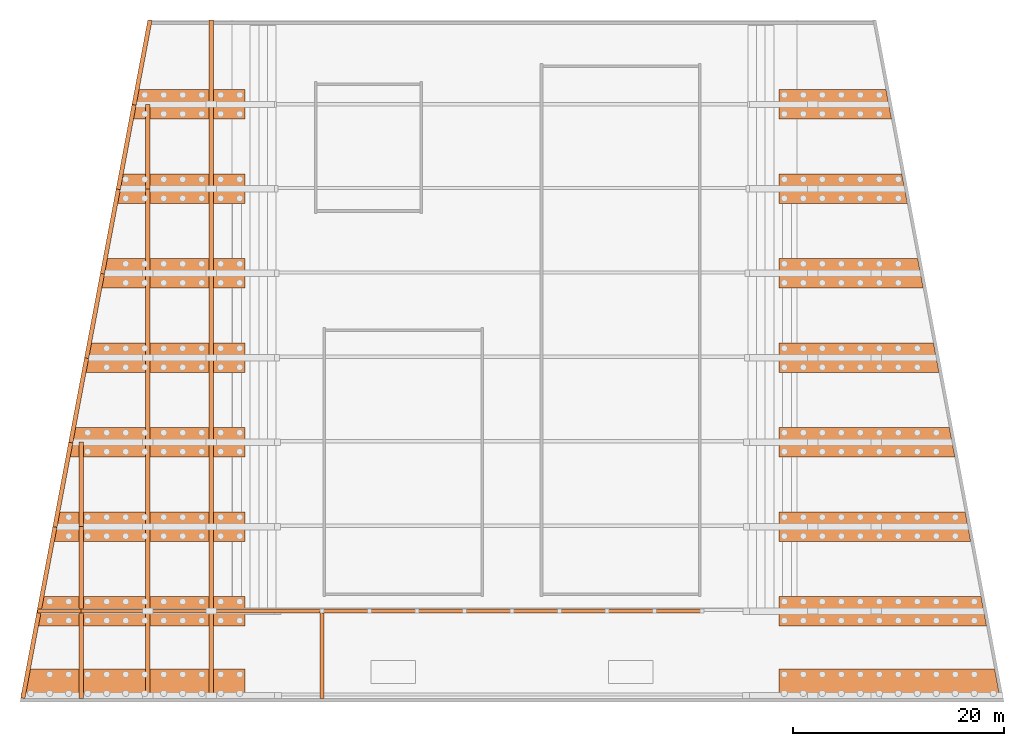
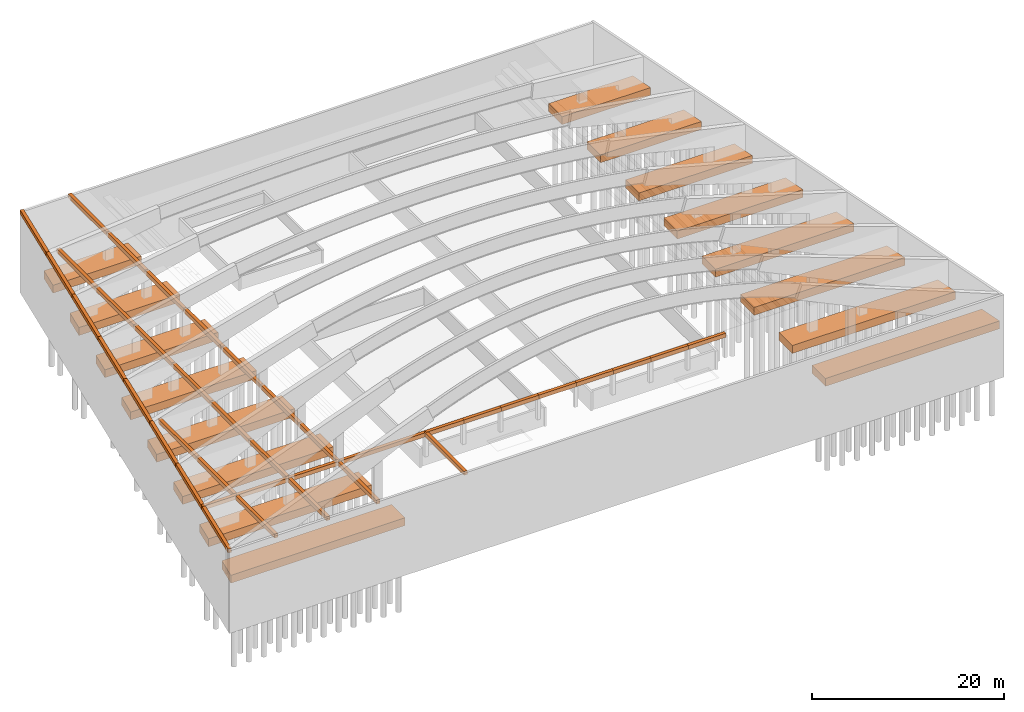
# One storey, part 7 of 10: 55 proxies.
"""IFC2X3 building model written with IfcOpenShell, lengths in millimetres."""

import ifcopenshell
import ifcopenshell.guid

model = None  # the IFC model being written
_history = None  # IfcOwnerHistory: only IFC2X3 demands one
_inside = {}  # id of a spatial element -> (the spatial element, [elements in it])
_under = {}  # id of a project, library or spatial element -> (it, [spatial elements below it])
_declared = {}  # id of a project -> (the project, [libraries it declares])
_typed = {}  # id of a type object -> (the type object, [elements of that type])
_made_of = {}  # id of a material, layer set ... -> (it, [elements and type objects made of it])


def new_model(schema):
    """Start an empty IFC model of exactly this schema.

    Asked for "IFC4X3", IfcOpenShell would pick the latest addendum, in which some entities
    have other attributes; the version numbers below select the first issue.
    IFC2X3 requires an IfcOwnerHistory on every rooted entity: one is made here for all.
    """
    global model, _history
    if schema == "IFC4X3":
        model = ifcopenshell.file(schema_version=(4, 3, 0, 0))
    else:
        model = ifcopenshell.file(schema=schema)
    _inside.clear()
    _under.clear()
    _declared.clear()
    _typed.clear()
    _made_of.clear()
    _history = None
    if model.schema == "IFC2X3":
        org = make("IfcOrganization", Name="unknown")
        user = make(
            "IfcPersonAndOrganization",
            ThePerson=make("IfcPerson", FamilyName="unknown"),
            TheOrganization=org,
        )
        app = make(
            "IfcApplication",
            ApplicationDeveloper=org,
            Version="unknown",
            ApplicationFullName="unknown",
            ApplicationIdentifier="unknown",
        )
        _history = make(
            "IfcOwnerHistory",
            OwningUser=user,
            OwningApplication=app,
            ChangeAction="ADDED",
            CreationDate=0,
        )
    return model


def make(cls, **values):
    """One entity of the class cls with the attributes given. An attribute that is None is left unset."""
    return model.create_entity(
        cls, **{name: value for name, value in values.items() if value is not None}
    )


def rooted(cls, **values):
    """An entity with a GlobalId (a new one), such as an element, a storey or a relation."""
    return make(cls, GlobalId=ifcopenshell.guid.new(), OwnerHistory=_history, **values)


def si_unit(unit_type, name, prefix=None):
    """IfcSIUnit, for example si_unit("LENGTHUNIT", "METRE", prefix="MILLI")."""
    return make("IfcSIUnit", UnitType=unit_type, Prefix=prefix, Name=name)


def derived_unit(unit_type, elements):
    """IfcDerivedUnit: a product of units, each with its exponent."""
    return make(
        "IfcDerivedUnit",
        Elements=[
            make("IfcDerivedUnitElement", Unit=unit, Exponent=power)
            for unit, power in elements
        ],
        UnitType=unit_type,
    )


def assignment(units):
    """IfcUnitAssignment: the units of a project."""
    return None if units is None else make("IfcUnitAssignment", Units=units)


def point(xyz):
    """IfcCartesianPoint."""
    return None if xyz is None else make("IfcCartesianPoint", Coordinates=xyz)


def direction(xyz):
    """IfcDirection."""
    return None if xyz is None else make("IfcDirection", DirectionRatios=xyz)


def frame(location, z_axis=None, x_axis=None):
    """IfcAxis2Placement3D, a coordinate frame: its origin and axes. An axis left out is left unset."""
    return make(
        "IfcAxis2Placement3D",
        Location=point(location),
        Axis=direction(z_axis),
        RefDirection=direction(x_axis),
    )


def frame_2d(location, x_axis=None):
    """IfcAxis2Placement2D, a coordinate frame in the plane: its origin and x axis."""
    return make(
        "IfcAxis2Placement2D", Location=point(location), RefDirection=direction(x_axis)
    )


def origin():
    """The frame at (0, 0, 0) with its axes left unset."""
    return frame((0.0, 0.0, 0.0))


def origin_2d_with_axis():
    """The frame at (0, 0) in the plane with the x axis (1, 0) written out."""
    return frame_2d((0.0, 0.0), x_axis=(1.0, 0.0))


def place(relative_to, where):
    """IfcLocalPlacement: puts the frame where relative to a parent placement (None: the world)."""
    return make(
        "IfcLocalPlacement", PlacementRelTo=relative_to, RelativePlacement=where
    )


def context(
    kind, dimensions, precision=None, world=None, true_north=None, identifier=None
):
    """IfcGeometricRepresentationContext, for example the 3D "Model" context."""
    return make(
        "IfcGeometricRepresentationContext",
        ContextIdentifier=identifier,
        ContextType=kind,
        CoordinateSpaceDimension=dimensions,
        Precision=precision,
        WorldCoordinateSystem=world,
        TrueNorth=true_north,
    )


def subcontext(parent, identifier, kind, view, scale=None):
    """IfcGeometricRepresentationSubContext, for example "Body" below "Model"."""
    return make(
        "IfcGeometricRepresentationSubContext",
        ContextIdentifier=identifier,
        ContextType=kind,
        ParentContext=parent,
        TargetScale=scale,
        TargetView=view,
    )


def project(units=None, contexts=None):
    """IfcProject with its units and contexts."""
    return rooted(
        "IfcProject",
        Name="project",
        RepresentationContexts=contexts,
        UnitsInContext=assignment(units),
    )


def spatial(cls, under=None, at=None, **own):
    """A site, building, storey or space (cls), placed at a placement, below another one or the project."""
    s = rooted(cls, ObjectPlacement=at, **own)
    if under is not None:
        _under.setdefault(under.id(), (under, []))[1].append(s)
    return s


def polyline(points):
    """IfcPolyline through the points."""
    return make("IfcPolyline", Points=[point(p) for p in points])


def profile(cls, at=None, kind="AREA", **sizes):
    """A parametric profile (cls). Its sizes go by their IFC names, for example OverallWidth=200.0."""
    return make(cls, ProfileType=kind, Position=at, **sizes)


def rectangle(**sizes):
    """IfcRectangleProfileDef."""
    return profile("IfcRectangleProfileDef", **sizes)


def outline(outer, holes=None, kind="AREA"):
    """IfcArbitraryClosedProfileDef: a profile drawn as a closed curve; with holes, ...WithVoids."""
    if holes is None:
        return make("IfcArbitraryClosedProfileDef", ProfileType=kind, OuterCurve=outer)
    return make(
        "IfcArbitraryProfileDefWithVoids",
        ProfileType=kind,
        OuterCurve=outer,
        InnerCurves=holes,
    )


def extrude(swept, where, along, depth):
    """IfcExtrudedAreaSolid: the profile swept, set in the frame where, extruded along a direction by depth."""
    return make(
        "IfcExtrudedAreaSolid",
        SweptArea=swept,
        Position=where,
        ExtrudedDirection=direction(along),
        Depth=depth,
    )


def shape(context_of_items, identifier, shape_type, items):
    """IfcShapeRepresentation: the items that make up one representation, for example the "Body"."""
    return make(
        "IfcShapeRepresentation",
        ContextOfItems=context_of_items,
        RepresentationIdentifier=identifier,
        RepresentationType=shape_type,
        Items=items,
    )


def source(mapping_origin, context_of_items, identifier, shape_type, items):
    """IfcRepresentationMap: a shape defined once, which mapped items show again and again."""
    return make(
        "IfcRepresentationMap",
        MappingOrigin=mapping_origin,
        MappedRepresentation=shape(context_of_items, identifier, shape_type, items),
    )


def transform(
    local_origin,
    x_axis=None,
    y_axis=None,
    z_axis=None,
    scale=None,
    scale2=None,
    scale3=None,
    uniform=True,
):
    """IfcCartesianTransformationOperator3D, or its non-uniform kind. x_axis, y_axis, z_axis: its Axis1, 2, 3."""
    if uniform:
        return make(
            "IfcCartesianTransformationOperator3D",
            Axis1=direction(x_axis),
            Axis2=direction(y_axis),
            LocalOrigin=point(local_origin),
            Scale=scale,
            Axis3=direction(z_axis),
        )
    return make(
        "IfcCartesianTransformationOperator3DnonUniform",
        Axis1=direction(x_axis),
        Axis2=direction(y_axis),
        LocalOrigin=point(local_origin),
        Scale=scale,
        Axis3=direction(z_axis),
        Scale2=scale2,
        Scale3=scale3,
    )


def mapped(mapping_source, mapping_target):
    """IfcMappedItem: shows the shape of a source again, moved by a transform."""
    return make(
        "IfcMappedItem", MappingSource=mapping_source, MappingTarget=mapping_target
    )


def material(Name=None, Category=None):
    """IfcMaterial."""
    return make("IfcMaterial", Name=Name, Category=Category)


def made_of(thing, what):
    """Note that an element or type object is made of a material, layer set ...; save() writes the relation."""
    if what is not None:
        _made_of.setdefault(what.id(), (what, []))[1].append(thing)
    return thing


def type_object(cls, material=None, **own):
    """A type object (cls), such as IfcWallType, which elements share."""
    return made_of(rooted(cls, **own), material)


def type_shapes(of_type, sources):
    """Give a type object the sources (RepresentationMaps) that its elements show as mapped items."""
    of_type.RepresentationMaps = sources


def element(
    cls,
    number,
    at=None,
    inside=None,
    cuts=None,
    type_object=None,
    material=None,
    context=None,
    identifier="Body",
    shape_type=None,
    held_by="IfcProductDefinitionShape",
    body=None,
    shapes=None,
    **own,
):
    """One element of the class cls, such as IfcWall. Its Tag is "e" and its number.

    at: its placement. inside: the storey or other place that contains it. cuts: it is an
    opening in that element (IfcRelVoidsElement). A single representation is given by context,
    identifier, shape_type and body (its items); several are given by shapes. held_by: the class
    of the entity that holds the representations. save() writes the other relations.
    """
    e = rooted(cls, Tag="e%d" % number, ObjectPlacement=at, **own)
    if body is not None:
        shapes = [shape(context, identifier, shape_type, body)]
    if shapes is not None:
        e.Representation = make(held_by, Representations=shapes)
    if inside is not None:
        _inside.setdefault(inside.id(), (inside, []))[1].append(e)
    if cuts is not None:
        rooted(
            "IfcRelVoidsElement", RelatingBuildingElement=cuts, RelatedOpeningElement=e
        )
    if type_object is not None:
        _typed.setdefault(type_object.id(), (type_object, []))[1].append(e)
    return made_of(e, material)


def aggregate(whole, parts):
    """IfcRelAggregates: a whole, such as a stair, and the parts it consists of."""
    return rooted("IfcRelAggregates", RelatingObject=whole, RelatedObjects=parts)


def save(model, path):
    """Write the relations noted so far, then the file.

    IfcRelAggregates (storeys below a building ...), IfcRelContainedInSpatialStructure (elements
    in a storey), IfcRelDefinesByType, IfcRelAssociatesMaterial and IfcRelDeclares: one each for
    every whole, place, type object, material and project.
    """
    for whole, parts in _under.values():
        aggregate(whole, parts)
    for where, things in _inside.values():
        rooted(
            "IfcRelContainedInSpatialStructure",
            RelatedElements=things,
            RelatingStructure=where,
        )
    for kind, things in _typed.values():
        rooted("IfcRelDefinesByType", RelatedObjects=things, RelatingType=kind)
    for what, things in _made_of.values():
        rooted("IfcRelAssociatesMaterial", RelatedObjects=things, RelatingMaterial=what)
    for by, libraries in _declared.values():
        rooted("IfcRelDeclares", RelatingContext=by, RelatedDefinitions=libraries)
    model.write(path)


model = new_model("IFC2X3")

# Units and contexts
model_context = context("Model", 3, precision=0.01, world=origin(), true_north=direction((6.12303176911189e-17, 1.0)))
body_context = subcontext(model_context, "Body", "Model", "MODEL_VIEW")
ifc_project = project(units=[si_unit("LENGTHUNIT", "METRE", prefix="MILLI"), si_unit("AREAUNIT", "SQUARE_METRE"), si_unit("VOLUMEUNIT", "CUBIC_METRE"), si_unit("PLANEANGLEUNIT", "RADIAN"), si_unit("MASSUNIT", "GRAM", prefix="KILO"), derived_unit("MASSDENSITYUNIT", [(si_unit("MASSUNIT", "GRAM", prefix="KILO"), 1), (si_unit("LENGTHUNIT", "METRE"), -3)]), si_unit("TIMEUNIT", "SECOND"), si_unit("FREQUENCYUNIT", "HERTZ"), si_unit("THERMODYNAMICTEMPERATUREUNIT", "DEGREE_CELSIUS"), derived_unit("THERMALTRANSMITTANCEUNIT", [(si_unit("MASSUNIT", "GRAM", prefix="KILO"), 1), (si_unit("THERMODYNAMICTEMPERATUREUNIT", "KELVIN"), -1), (si_unit("TIMEUNIT", "SECOND"), -3)]), derived_unit("VOLUMETRICFLOWRATEUNIT", [(si_unit("LENGTHUNIT", "METRE"), 3), (si_unit("TIMEUNIT", "SECOND"), -1)]), si_unit("ELECTRICCURRENTUNIT", "AMPERE"), si_unit("ELECTRICVOLTAGEUNIT", "VOLT"), si_unit("POWERUNIT", "WATT"), si_unit("FORCEUNIT", "NEWTON", prefix="KILO"), si_unit("ILLUMINANCEUNIT", "LUX"), si_unit("LUMINOUSFLUXUNIT", "LUMEN"), si_unit("LUMINOUSINTENSITYUNIT", "CANDELA"), derived_unit("USERDEFINED", [(si_unit("MASSUNIT", "GRAM", prefix="KILO"), -1), (si_unit("LENGTHUNIT", "METRE"), -2), (si_unit("TIMEUNIT", "SECOND"), 3), (si_unit("LUMINOUSFLUXUNIT", "LUMEN"), 1)]), derived_unit("LINEARVELOCITYUNIT", [(si_unit("LENGTHUNIT", "METRE"), 1), (si_unit("TIMEUNIT", "SECOND"), -1)]), si_unit("PRESSUREUNIT", "PASCAL"), derived_unit("USERDEFINED", [(si_unit("LENGTHUNIT", "METRE"), -2), (si_unit("MASSUNIT", "GRAM", prefix="KILO"), 1), (si_unit("TIMEUNIT", "SECOND"), -2)])], contexts=[model_context])

# Site, building, storey
site_placement = place(None, origin())
site = spatial("IfcSite", under=ifc_project, at=site_placement, Name="Default", CompositionType="ELEMENT")
building_placement = place(site_placement, origin())
building = spatial("IfcBuilding", under=site, at=building_placement, CompositionType="ELEMENT")
storey_placement = place(building_placement, origin())
storey = spatial("IfcBuildingStorey", under=building, at=storey_placement, Name="Default", CompositionType="ELEMENT", Elevation=0.0)

# Proxies
ifc_material_1 = material(Name="CONCRETE/28MPa")
building_element_proxy_type_1 = type_object("IfcBuildingElementProxyType", Name="1000*2800 5068", PredefinedType="NOTDEFINED", material=ifc_material_1)
shared_shape_1 = source(origin(), body_context, "Body", "SweptSolid", [
    extrude(outline(polyline([(-10344.2640245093, -1400.0), (10081.7672788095, -1400.0), (10606.7607702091, 1400.0), (-10344.2640245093, 1400.0), (-10344.2640245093, -1400.0)])), frame((10855.7390539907, 0.0, -500.0), z_axis=(0.0, 0.0, 1.0), x_axis=(-1.0, 0.0, 0.0)), (0.0, 0.0, 1.0), 1000.0),
])
type_shapes(building_element_proxy_type_1, [shared_shape_1])
proxy_1_placement = place(storey_placement, frame((34508.8569215, 67902.3654658, -3800.0)))
element("IfcBuildingElementProxy", 1, at=proxy_1_placement, inside=storey, type_object=building_element_proxy_type_1, material=ifc_material_1, Name="1000*2800 5068:1000*2800 5068", ObjectType="1000*2800 5068:1000*2800 5068", context=body_context, shape_type="MappedRepresentation", body=[
    mapped(shared_shape_1, transform((0.0, 0.0, 0.0), scale=1.0)),
])
building_element_proxy_type_2 = type_object("IfcBuildingElementProxyType", Name="1000*2800 5022", PredefinedType="NOTDEFINED", material=ifc_material_1)
shared_shape_2 = source(origin(), body_context, "Body", "SweptSolid", [
    extrude(outline(polyline([(-9697.39704403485, -1400.0), (9434.90029833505, -1400.0), (9959.89378973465, 1400.0), (-9697.39704403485, 1400.0), (-9697.39704403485, -1400.0)])), frame((10155.2193028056, 0.0, -500.0), z_axis=(0.0, 0.0, 1.0), x_axis=(-1.0, 0.0, 0.0)), (0.0, 0.0, 1.0), 1000.0),
])
type_shapes(building_element_proxy_type_2, [shared_shape_2])
proxy_2_placement = place(storey_placement, frame((35856.2436531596, 74802.3654658, -3800.0)))
element("IfcBuildingElementProxy", 2, at=proxy_2_placement, inside=storey, type_object=building_element_proxy_type_2, material=ifc_material_1, Name="1000*2800 5022:1000*2800 5022", ObjectType="1000*2800 5022:1000*2800 5022", context=body_context, shape_type="MappedRepresentation", body=[
    mapped(shared_shape_2, transform((0.0, 0.0, 0.0), scale=1.0)),
])
building_element_proxy_type_3 = type_object("IfcBuildingElementProxyType", Name="1000*2800 5003", PredefinedType="NOTDEFINED", material=ifc_material_1)
shared_shape_3 = source(origin(), body_context, "Body", "SweptSolid", [
    extrude(outline(polyline([(-8947.40634203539, -1400.0), (8684.90959633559, -1400.0), (9209.90308773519, 1400.0), (-8947.40634203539, 1400.0), (-8947.40634203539, -1400.0)])), frame((9226.15124143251, 0.0, -500.0), z_axis=(0.0, 0.0, 1.0), x_axis=(-1.0, 0.0, 0.0)), (0.0, 0.0, 1.0), 1000.0),
])
type_shapes(building_element_proxy_type_3, [shared_shape_3])
proxy_3_placement = place(storey_placement, frame((37535.3024165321, 82802.3654658, -3800.0)))
element("IfcBuildingElementProxy", 3, at=proxy_3_placement, inside=storey, type_object=building_element_proxy_type_3, material=ifc_material_1, Name="1000*2800 5003:1000*2800 5003", ObjectType="1000*2800 5003:1000*2800 5003", context=body_context, shape_type="MappedRepresentation", body=[
    mapped(shared_shape_3, transform((0.0, 0.0, 0.0), scale=1.0)),
])
building_element_proxy_type_4 = type_object("IfcBuildingElementProxyType", Name="1000*2800 4986", PredefinedType="NOTDEFINED", material=ifc_material_1)
shared_shape_4 = source(origin(), body_context, "Body", "SweptSolid", [
    extrude(outline(polyline([(-7447.42339878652, -1400.0), (7184.92665308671, -1400.0), (7709.92014448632, 1400.0), (-7447.42339878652, 1400.0), (-7447.42339878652, -1400.0)])), frame((7755.09027308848, 0.0, -500.0), z_axis=(0.0, 0.0, 1.0), x_axis=(-1.0, 0.0, 0.0)), (0.0, 0.0, 1.0), 1000.0),
])
type_shapes(building_element_proxy_type_4, [shared_shape_4])
proxy_4_placement = place(storey_placement, frame((40506.343249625, 98802.3654658, -3800.0)))
element("IfcBuildingElementProxy", 4, at=proxy_4_placement, inside=storey, type_object=building_element_proxy_type_4, material=ifc_material_1, Name="1000*2800 4986:1000*2800 4986", ObjectType="1000*2800 4986:1000*2800 4986", context=body_context, shape_type="MappedRepresentation", body=[
    mapped(shared_shape_4, transform((0.0, 0.0, 0.0), scale=1.0)),
])
building_element_proxy_type_5 = type_object("IfcBuildingElementProxyType", Name="1000*2800 4966", PredefinedType="NOTDEFINED", material=ifc_material_1)
shared_shape_5 = source(origin(), body_context, "Body", "SweptSolid", [
    extrude(outline(polyline([(-6697.43269678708, -1400.0), (6434.93595108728, -1400.0), (6959.92944248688, 1400.0), (-6697.43269678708, 1400.0), (-6697.43269678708, -1400.0)])), frame((7020.22160008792, 0.0, -500.0), z_axis=(0.0, 0.0, 1.0), x_axis=(-1.0, 0.0, 0.0)), (0.0, 0.0, 1.0), 1000.0),
])
type_shapes(building_element_proxy_type_5, [shared_shape_5])
proxy_5_placement = place(storey_placement, frame((41991.202624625, 106802.3654658, -3800.0)))
element("IfcBuildingElementProxy", 5, at=proxy_5_placement, inside=storey, type_object=building_element_proxy_type_5, material=ifc_material_1, Name="1000*2800 4966:1000*2800 4966", ObjectType="1000*2800 4966:1000*2800 4966", context=body_context, shape_type="MappedRepresentation", body=[
    mapped(shared_shape_5, transform((0.0, 0.0, 0.0), scale=1.0)),
])
building_element_proxy_type_6 = type_object("IfcBuildingElementProxyType", Name="1000*2800 4946", PredefinedType="NOTDEFINED", material=ifc_material_1)
shared_shape_6 = source(origin(), body_context, "Body", "SweptSolid", [
    extrude(outline(polyline([(-5948.86412433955, -1400.0), (5683.52311880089, -1400.0), (6214.2051298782, 1400.0), (-5948.86412433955, 1400.0), (-5948.86412433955, -1400.0)])), frame((6283.48939118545, 0.0, -500.0), z_axis=(0.0, 0.0, 1.0), x_axis=(-1.0, 0.0, 0.0)), (0.0, 0.0, 1.0), 1000.0),
])
type_shapes(building_element_proxy_type_6, [shared_shape_6])
proxy_6_placement = place(storey_placement, frame((43476.503405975, 114802.3654658, -3800.0)))
element("IfcBuildingElementProxy", 6, at=proxy_6_placement, inside=storey, type_object=building_element_proxy_type_6, material=ifc_material_1, Name="1000*2800 4946:1000*2800 4946", ObjectType="1000*2800 4946:1000*2800 4946", context=body_context, shape_type="MappedRepresentation", body=[
    mapped(shared_shape_6, transform((0.0, 0.0, 0.0), scale=1.0)),
])
building_element_proxy_type_7 = type_object("IfcBuildingElementProxyType", Name="1000*2800 4924", PredefinedType="NOTDEFINED", material=ifc_material_1)
shared_shape_7 = source(origin(), body_context, "Body", "SweptSolid", [
    extrude(outline(polyline([(-5197.45129278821, -1400.0), (4934.95454708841, -1400.0), (5459.94803848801, 1400.0), (-5197.45129278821, 1400.0), (-5197.45129278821, -1400.0)])), frame((5549.60241814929, 0.0, -500.0), z_axis=(0.0, 0.0, 1.0), x_axis=(-1.0, 0.0, 0.0)), (0.0, 0.0, 1.0), 1000.0),
])
type_shapes(building_element_proxy_type_7, [shared_shape_7])
proxy_7_placement = place(storey_placement, frame((44961.8032105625, 122802.3654658, -3800.0)))
element("IfcBuildingElementProxy", 7, at=proxy_7_placement, inside=storey, type_object=building_element_proxy_type_7, material=ifc_material_1, Name="1000*2800 4924:1000*2800 4924", ObjectType="1000*2800 4924:1000*2800 4924", context=body_context, shape_type="MappedRepresentation", body=[
    mapped(shared_shape_7, transform((0.0, 0.0, 0.0), scale=1.0)),
])
ifc_material_2 = material(Name="CONCRETE/28MPa 4258")
building_element_proxy_type_8 = type_object("IfcBuildingElementProxyType", Name="500*400", PredefinedType="NOTDEFINED", material=ifc_material_2)
shared_shape_8 = source(origin(), body_context, "Body", "SweptSolid", [
    extrude(rectangle(XDim=8300.0, YDim=400.0, at=origin_2d_with_axis()), frame((4150.0, 0.0, -250.0)), (0.0, 0.0, 1.0), 500.0),
])
type_shapes(building_element_proxy_type_8, [shared_shape_8])
for number, where, z_axis, x_axis in (
    (8, (52508.86, 66503.9483369, -150.0), (0.0, 0.0, 1.0), (0.0, 1.0, 0.0)),
    (9, (46508.86, 66503.9483369, -150.0), (0.0, 0.0, 1.0), (0.0, 1.0, 0.0)),
    (10, (40201.9643423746, 66502.3654658, -150.0), (0.0, 0.0, 1.0), (0.0, 1.0, 0.0)),
    (11, (63008.86, 74802.37, -150.0), (0.0, 0.0, 1.0), (0.0, -1.0, 0.0)),
):
    element("IfcBuildingElementProxy", number, at=place(storey_placement, frame(where, z_axis=z_axis, x_axis=x_axis)), inside=storey, type_object=building_element_proxy_type_8, material=ifc_material_2, Name="500*400:500*400", ObjectType="500*400:500*400", context=body_context, shape_type="MappedRepresentation", body=[
        mapped(shared_shape_8, transform((0.0, 0.0, 0.0), scale=1.0)),
    ])
building_element_proxy_type_9 = type_object("IfcBuildingElementProxyType", Name="500*400 4495", PredefinedType="NOTDEFINED", material=ifc_material_2)
shared_shape_9 = source(origin(), body_context, "Body", "SweptSolid", [
    extrude(rectangle(XDim=8000.0, YDim=400.0, at=origin_2d_with_axis()), frame((4000.0, 0.0, -250.0)), (0.0, 0.0, 1.0), 500.0),
])
type_shapes(building_element_proxy_type_9, [shared_shape_9])
for number, where, z_axis, x_axis in (
    (12, (52508.86, 74803.9483369, -150.0), (0.0, 0.0, 1.0), (0.0, 1.0, 0.0)),
    (13, (52508.86, 82803.9483369, -150.0), (0.0, 0.0, 1.0), (0.0, 1.0, 0.0)),
    (14, (52508.86, 90803.9483369, -150.0), (0.0, 0.0, 1.0), (0.0, 1.0, 0.0)),
    (15, (52508.86, 98803.9483369, -150.0), (0.0, 0.0, 1.0), (0.0, 1.0, 0.0)),
    (16, (52508.86, 106803.9483369, -150.0), (0.0, 0.0, 1.0), (0.0, 1.0, 0.0)),
    (17, (52508.86, 114803.9483369, -150.0), (0.0, 0.0, 1.0), (0.0, 1.0, 0.0)),
    (18, (46508.86, 74803.9483369, -150.0), (0.0, 0.0, 1.0), (0.0, 1.0, 0.0)),
    (19, (46508.86, 82803.9483369, -150.0), (0.0, 0.0, 1.0), (0.0, 1.0, 0.0)),
    (20, (46508.86, 90803.9483369, -150.0), (0.0, 0.0, 1.0), (0.0, 1.0, 0.0)),
    (21, (46508.86, 98803.9483369, -150.0), (0.0, 0.0, 1.0), (0.0, 1.0, 0.0)),
    (22, (46508.86, 106803.9483369, -150.0), (0.0, 0.0, 1.0), (0.0, 1.0, 0.0)),
    (23, (46508.86, 114803.9483369, -150.0), (0.0, 0.0, 1.0), (0.0, 1.0, 0.0)),
    (24, (40201.9643423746, 74802.3654658, -150.0), (0.0, 0.0, 1.0), (0.0, 1.0, 0.0)),
    (25, (40201.9643423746, 82803.1554658, -150.0), (0.0, 0.0, 1.0), (0.0, 1.0, 0.0)),
):
    element("IfcBuildingElementProxy", number, at=place(storey_placement, frame(where, z_axis=z_axis, x_axis=x_axis)), inside=storey, type_object=building_element_proxy_type_9, material=ifc_material_2, Name="500*400 4495:500*400 4495", ObjectType="500*400 4495:500*400 4495", context=body_context, shape_type="MappedRepresentation", body=[
        mapped(shared_shape_9, transform((0.0, 0.0, 0.0), scale=1.0)),
    ])
building_element_proxy_type_10 = type_object("IfcBuildingElementProxyType", Name="500*400 4752", PredefinedType="NOTDEFINED", material=ifc_material_2)
shared_shape_10 = source(origin(), body_context, "Body", "SweptSolid", [
    extrude(rectangle(XDim=7998.42, YDim=400.0, at=origin_2d_with_axis()), frame((3999.2116631, 0.0, -250.0)), (0.0, 0.0, 1.0), 500.0),
])
type_shapes(building_element_proxy_type_10, [shared_shape_10])
proxy_8_placement = place(storey_placement, frame((52508.86, 122803.9483369, -150.0), z_axis=(0.0, 0.0, 1.0), x_axis=(0.0, 1.0, 0.0)))
element("IfcBuildingElementProxy", 26, at=proxy_8_placement, inside=storey, type_object=building_element_proxy_type_10, material=ifc_material_2, Name="500*400 4752:500*400 4752", ObjectType="500*400 4752:500*400 4752", context=body_context, shape_type="MappedRepresentation", body=[
    mapped(shared_shape_10, transform((0.0, 0.0, 0.0), scale=1.0)),
])
building_element_proxy_type_11 = type_object("IfcBuildingElementProxyType", Name="500*400 4658", PredefinedType="NOTDEFINED", material=ifc_material_2)
shared_shape_11 = source(origin(), body_context, "Body", "SweptSolid", [
    extrude(rectangle(XDim=8364.41, YDim=400.0, at=origin_2d_with_axis()), frame((4182.2064811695, 0.0, -250.0)), (0.0, 0.0, 1.0), 500.0),
])
type_shapes(building_element_proxy_type_11, [shared_shape_11])
proxy_9_placement = place(storey_placement, frame((34663.9670140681, 66544.3618653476, -150.0), z_axis=(0.0, 0.0, 1.0), x_axis=(0.184286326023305, 0.982872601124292, 0.0)))
element("IfcBuildingElementProxy", 27, at=proxy_9_placement, inside=storey, type_object=building_element_proxy_type_11, material=ifc_material_2, Name="500*400 4658:500*400 4658", ObjectType="500*400 4658:500*400 4658", context=body_context, shape_type="MappedRepresentation", body=[
    mapped(shared_shape_11, transform((0.0, 0.0, 0.0), scale=1.0)),
])
building_element_proxy_type_12 = type_object("IfcBuildingElementProxyType", Name="500*400 4569", PredefinedType="NOTDEFINED", material=ifc_material_2)
shared_shape_12 = source(origin(), body_context, "Body", "SweptSolid", [
    extrude(rectangle(XDim=8139.41, YDim=400.0, at=origin_2d_with_axis()), frame((4069.70648117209, 0.0, -250.0)), (0.0, 0.0, 1.0), 500.0),
])
type_shapes(building_element_proxy_type_12, [shared_shape_12])
for number, where, z_axis, x_axis in (
    (28, (36205.411437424, 74765.5082006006, -150.0), (0.0, 0.0, 1.0), (0.184286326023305, 0.982872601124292, 0.0)),
    (29, (37705.391437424, 82765.5082006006, -150.0), (0.0, 0.0, 1.0), (0.184286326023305, 0.982872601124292, 0.0)),
    (30, (39205.3714374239, 90765.5082006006, -150.0), (0.0, 0.0, 1.0), (0.184286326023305, 0.982872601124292, 0.0)),
    (31, (40705.351437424, 98765.5082006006, -150.0), (0.0, 0.0, 1.0), (0.184286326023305, 0.982872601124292, 0.0)),
    (32, (42205.3314374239, 106765.508200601, -150.0), (0.0, 0.0, 1.0), (0.184286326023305, 0.982872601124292, 0.0)),
    (33, (43705.311437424, 114765.508200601, -150.0), (0.0, 0.0, 1.0), (0.184286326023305, 0.982872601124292, 0.0)),
):
    element("IfcBuildingElementProxy", number, at=place(storey_placement, frame(where, z_axis=z_axis, x_axis=x_axis)), inside=storey, type_object=building_element_proxy_type_12, material=ifc_material_2, Name="500*400 4569:500*400 4569", ObjectType="500*400 4569:500*400 4569", context=body_context, shape_type="MappedRepresentation", body=[
        mapped(shared_shape_12, transform((0.0, 0.0, 0.0), scale=1.0)),
    ])
building_element_proxy_type_13 = type_object("IfcBuildingElementProxyType", Name="500*400 4543", PredefinedType="NOTDEFINED", material=ifc_material_2)
shared_shape_13 = source(origin(), body_context, "Body", "SweptSolid", [
    extrude(rectangle(XDim=8139.19, YDim=400.0, at=origin_2d_with_axis()), frame((4069.59041334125, 0.0, -250.0)), (0.0, 0.0, 1.0), 500.0),
])
type_shapes(building_element_proxy_type_13, [shared_shape_13])
proxy_10_placement = place(storey_placement, frame((45205.291395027, 122765.507974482, -150.0), z_axis=(0.0, 0.0, 1.0), x_axis=(0.184287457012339, 0.982872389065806, 0.0)))
element("IfcBuildingElementProxy", 34, at=proxy_10_placement, inside=storey, type_object=building_element_proxy_type_13, material=ifc_material_2, Name="500*400 4543:500*400 4543", ObjectType="500*400 4543:500*400 4543", context=body_context, shape_type="MappedRepresentation", body=[
    mapped(shared_shape_13, transform((0.0, 0.0, 0.0), scale=1.0)),
])
building_element_proxy_type_14 = type_object("IfcBuildingElementProxyType", Name="500*400 4468", PredefinedType="NOTDEFINED", material=ifc_material_2)
shared_shape_14 = source(origin(), body_context, "Body", "SweptSolid", [
    extrude(rectangle(XDim=4148.05, YDim=400.0, at=origin_2d_with_axis()), frame((2074.02550152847, 0.0, -250.0)), (0.0, 0.0, 1.0), 500.0),
])
type_shapes(building_element_proxy_type_14, [shared_shape_14])
proxy_11_placement = place(storey_placement, frame((36050.809498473, 74802.3700000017, -150.0)))
element("IfcBuildingElementProxy", 35, at=proxy_11_placement, inside=storey, type_object=building_element_proxy_type_14, material=ifc_material_2, Name="500*400 4468:500*400 4468", ObjectType="500*400 4468:500*400 4468", context=body_context, shape_type="MappedRepresentation", body=[
    mapped(shared_shape_14, transform((0.0, 0.0, 0.0), scale=1.0)),
])
building_element_proxy_type_15 = type_object("IfcBuildingElementProxyType", Name="500*400 4444", PredefinedType="NOTDEFINED", material=ifc_material_2)
shared_shape_15 = source(origin(), body_context, "Body", "SweptSolid", [
    extrude(rectangle(XDim=6310.0, YDim=400.0, at=origin_2d_with_axis()), frame((3155.0, 0.0, -250.0)), (0.0, 0.0, 1.0), 500.0),
])
type_shapes(building_element_proxy_type_15, [shared_shape_15])
proxy_12_placement = place(storey_placement, frame((40198.86, 74802.3700000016, -150.0)))
element("IfcBuildingElementProxy", 36, at=proxy_12_placement, inside=storey, type_object=building_element_proxy_type_15, material=ifc_material_2, Name="500*400 4444:500*400 4444", ObjectType="500*400 4444:500*400 4444", context=body_context, shape_type="MappedRepresentation", body=[
    mapped(shared_shape_15, transform((0.0, 0.0, 0.0), scale=1.0)),
])
building_element_proxy_type_16 = type_object("IfcBuildingElementProxyType", Name="500*400 4419", PredefinedType="NOTDEFINED", material=ifc_material_2)
shared_shape_16 = source(origin(), body_context, "Body", "SweptSolid", [
    extrude(rectangle(XDim=6000.0, YDim=400.0, at=origin_2d_with_axis()), frame((3000.0, 0.0, -250.0)), (0.0, 0.0, 1.0), 500.0),
])
type_shapes(building_element_proxy_type_16, [shared_shape_16])
proxy_13_placement = place(storey_placement, frame((46508.86, 74802.3700000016, -150.0)))
element("IfcBuildingElementProxy", 37, at=proxy_13_placement, inside=storey, type_object=building_element_proxy_type_16, material=ifc_material_2, Name="500*400 4419:500*400 4419", ObjectType="500*400 4419:500*400 4419", context=body_context, shape_type="MappedRepresentation", body=[
    mapped(shared_shape_16, transform((0.0, 0.0, 0.0), scale=1.0)),
])
building_element_proxy_type_17 = type_object("IfcBuildingElementProxyType", Name="500*400 4394", PredefinedType="NOTDEFINED", material=ifc_material_2)
shared_shape_17 = source(origin(), body_context, "Body", "SweptSolid", [
    extrude(rectangle(XDim=10500.0, YDim=400.0, at=origin_2d_with_axis()), frame((5250.0, 0.0, -250.0)), (0.0, 0.0, 1.0), 500.0),
])
type_shapes(building_element_proxy_type_17, [shared_shape_17])
proxy_14_placement = place(storey_placement, frame((52508.86, 74802.3700000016, -150.0)))
element("IfcBuildingElementProxy", 38, at=proxy_14_placement, inside=storey, type_object=building_element_proxy_type_17, material=ifc_material_2, Name="500*400 4394:500*400 4394", ObjectType="500*400 4394:500*400 4394", context=body_context, shape_type="MappedRepresentation", body=[
    mapped(shared_shape_17, transform((0.0, 0.0, 0.0), scale=1.0)),
])
building_element_proxy_type_18 = type_object("IfcBuildingElementProxyType", Name="500*400 4300", PredefinedType="NOTDEFINED", material=ifc_material_2)
shared_shape_18 = source(origin(), body_context, "Body", "SweptSolid", [
    extrude(rectangle(XDim=4500.0, YDim=400.0, at=origin_2d_with_axis()), frame((2250.0, 0.0, -250.0)), (0.0, 0.0, 1.0), 500.0),
])
type_shapes(building_element_proxy_type_18, [shared_shape_18])
for number, where in (
    (39, (63008.86, 74802.37, -150.0)),
    (40, (67508.86, 74802.3700000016, -150.0)),
    (41, (72008.86, 74802.3700000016, -150.0)),
    (42, (76508.86, 74802.3700000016, -150.0)),
    (43, (81008.86, 74802.3700000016, -150.0)),
    (44, (85508.86, 74802.3700000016, -150.0)),
    (45, (90008.86, 74802.3700000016, -150.0)),
    (46, (94508.86, 74802.3700000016, -150.0)),
):
    element("IfcBuildingElementProxy", number, at=place(storey_placement, frame(where)), inside=storey, type_object=building_element_proxy_type_18, material=ifc_material_2, Name="500*400 4300:500*400 4300", ObjectType="500*400 4300:500*400 4300", context=body_context, shape_type="MappedRepresentation", body=[
        mapped(shared_shape_18, transform((0.0, 0.0, 0.0), scale=1.0)),
    ])
building_element_proxy_type_19 = type_object("IfcBuildingElementProxyType", Name="1000*2800 3217", PredefinedType="NOTDEFINED", material=ifc_material_1)
shared_shape_19 = source(origin(), body_context, "Body", "SweptSolid", [
    extrude(outline(polyline([(-8197.41634203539, -1400.0), (7934.91959633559, -1400.0), (8459.91308773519, 1400.0), (-8197.41634203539, 1400.0), (-8197.41634203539, -1400.0)])), frame((8476.16124143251, 0.0, -500.0), z_axis=(0.0, 0.0, 1.0), x_axis=(-1.0, 0.0, 0.0)), (0.0, 0.0, 1.0), 1000.0),
])
type_shapes(building_element_proxy_type_19, [shared_shape_19])
proxy_15_placement = place(storey_placement, frame((39035.2824165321, 90802.3654658, -3800.0)))
element("IfcBuildingElementProxy", 47, at=proxy_15_placement, inside=storey, type_object=building_element_proxy_type_19, material=ifc_material_1, Name="1000*2800 3217:1000*2800 3217", ObjectType="1000*2800 3217:1000*2800 3217", context=body_context, shape_type="MappedRepresentation", body=[
    mapped(shared_shape_19, transform((0.0, 0.0, 0.0), scale=1.0)),
])
building_element_proxy_type_20 = type_object("IfcBuildingElementProxyType", Name="1000*2800 1835", PredefinedType="NOTDEFINED", material=ifc_material_1)
shared_shape_20 = source(origin(), body_context, "Body", "SweptSolid", [
    extrude(outline(polyline([(-10344.2640245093, -1400.0), (10606.7607702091, -1400.0), (10081.7672788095, 1400.0), (-10344.2640245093, 1400.0), (-10344.2640245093, -1400.0)])), frame((10855.7390539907, 0.0, -500.0), z_axis=(0.0, 0.0, 1.0), x_axis=(-1.0, 0.0, 0.0)), (0.0, 0.0, 1.0), 1000.0),
])
type_shapes(building_element_proxy_type_20, [shared_shape_20])
proxy_16_placement = place(storey_placement, frame((127508.8630785, 67902.3654658, -3800.0), z_axis=(0.0, 0.0, 1.0), x_axis=(-1.0, 0.0, 0.0)))
element("IfcBuildingElementProxy", 48, at=proxy_16_placement, inside=storey, type_object=building_element_proxy_type_20, material=ifc_material_1, Name="1000*2800 1835:1000*2800 1835", ObjectType="1000*2800 1835:1000*2800 1835", context=body_context, shape_type="MappedRepresentation", body=[
    mapped(shared_shape_20, transform((0.0, 0.0, 0.0), scale=1.0)),
])
building_element_proxy_type_21 = type_object("IfcBuildingElementProxyType", Name="1000*2800 1754", PredefinedType="NOTDEFINED", material=ifc_material_1)
shared_shape_21 = source(origin(), body_context, "Body", "SweptSolid", [
    extrude(outline(polyline([(-9697.39704403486, -1400.0), (9959.89378973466, -1400.0), (9434.90029833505, 1400.0), (-9697.39704403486, 1400.0), (-9697.39704403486, -1400.0)])), frame((10155.2193028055, 0.0, -500.0), z_axis=(0.0, 0.0, 1.0), x_axis=(-1.0, 0.0, 0.0)), (0.0, 0.0, 1.0), 1000.0),
])
type_shapes(building_element_proxy_type_21, [shared_shape_21])
proxy_17_placement = place(storey_placement, frame((126161.47634684, 74802.3654658, -3800.0), z_axis=(0.0, 0.0, 1.0), x_axis=(-1.0, 0.0, 0.0)))
element("IfcBuildingElementProxy", 49, at=proxy_17_placement, inside=storey, type_object=building_element_proxy_type_21, material=ifc_material_1, Name="1000*2800 1754:1000*2800 1754", ObjectType="1000*2800 1754:1000*2800 1754", context=body_context, shape_type="MappedRepresentation", body=[
    mapped(shared_shape_21, transform((0.0, 0.0, 0.0), scale=1.0)),
])
building_element_proxy_type_22 = type_object("IfcBuildingElementProxyType", Name="1000*2800 1722", PredefinedType="NOTDEFINED", material=ifc_material_1)
shared_shape_22 = source(origin(), body_context, "Body", "SweptSolid", [
    extrude(outline(polyline([(-8947.40634203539, -1400.0), (9209.90308773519, -1400.0), (8684.90959633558, 1400.0), (-8947.40634203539, 1400.0), (-8947.40634203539, -1400.0)])), frame((9226.15124143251, 0.0, -500.0), z_axis=(0.0, 0.0, 1.0), x_axis=(-1.0, 0.0, 0.0)), (0.0, 0.0, 1.0), 1000.0),
])
type_shapes(building_element_proxy_type_22, [shared_shape_22])
proxy_18_placement = place(storey_placement, frame((124482.417583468, 82802.3654658, -3800.0), z_axis=(0.0, 0.0, 1.0), x_axis=(-1.0, 0.0, 0.0)))
element("IfcBuildingElementProxy", 50, at=proxy_18_placement, inside=storey, type_object=building_element_proxy_type_22, material=ifc_material_1, Name="1000*2800 1722:1000*2800 1722", ObjectType="1000*2800 1722:1000*2800 1722", context=body_context, shape_type="MappedRepresentation", body=[
    mapped(shared_shape_22, transform((0.0, 0.0, 0.0), scale=1.0)),
])
building_element_proxy_type_23 = type_object("IfcBuildingElementProxyType", Name="1000*2800 1692", PredefinedType="NOTDEFINED", material=ifc_material_1)
shared_shape_23 = source(origin(), body_context, "Body", "SweptSolid", [
    extrude(outline(polyline([(-7447.42339878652, -1400.0), (7709.92014448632, -1400.0), (7184.92665308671, 1400.0), (-7447.42339878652, 1400.0), (-7447.42339878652, -1400.0)])), frame((7755.09027308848, 0.0, -500.0), z_axis=(0.0, 0.0, 1.0), x_axis=(-1.0, 0.0, 0.0)), (0.0, 0.0, 1.0), 1000.0),
])
type_shapes(building_element_proxy_type_23, [shared_shape_23])
proxy_19_placement = place(storey_placement, frame((121511.376750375, 98802.3654658, -3800.0), z_axis=(0.0, 0.0, 1.0), x_axis=(-1.0, 0.0, 0.0)))
element("IfcBuildingElementProxy", 51, at=proxy_19_placement, inside=storey, type_object=building_element_proxy_type_23, material=ifc_material_1, Name="1000*2800 1692:1000*2800 1692", ObjectType="1000*2800 1692:1000*2800 1692", context=body_context, shape_type="MappedRepresentation", body=[
    mapped(shared_shape_23, transform((0.0, 0.0, 0.0), scale=1.0)),
])
building_element_proxy_type_24 = type_object("IfcBuildingElementProxyType", Name="1000*2800 1660", PredefinedType="NOTDEFINED", material=ifc_material_1)
shared_shape_24 = source(origin(), body_context, "Body", "SweptSolid", [
    extrude(outline(polyline([(-6697.43269678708, -1400.0), (6959.92944248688, -1400.0), (6434.93595108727, 1400.0), (-6697.43269678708, 1400.0), (-6697.43269678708, -1400.0)])), frame((7020.22160008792, 0.0, -500.0), z_axis=(0.0, 0.0, 1.0), x_axis=(-1.0, 0.0, 0.0)), (0.0, 0.0, 1.0), 1000.0),
])
type_shapes(building_element_proxy_type_24, [shared_shape_24])
proxy_20_placement = place(storey_placement, frame((120026.517375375, 106802.3654658, -3800.0), z_axis=(0.0, 0.0, 1.0), x_axis=(-1.0, 0.0, 0.0)))
element("IfcBuildingElementProxy", 52, at=proxy_20_placement, inside=storey, type_object=building_element_proxy_type_24, material=ifc_material_1, Name="1000*2800 1660:1000*2800 1660", ObjectType="1000*2800 1660:1000*2800 1660", context=body_context, shape_type="MappedRepresentation", body=[
    mapped(shared_shape_24, transform((0.0, 0.0, 0.0), scale=1.0)),
])
building_element_proxy_type_25 = type_object("IfcBuildingElementProxyType", Name="1000*2800 1628", PredefinedType="NOTDEFINED", material=ifc_material_1)
shared_shape_25 = source(origin(), body_context, "Body", "SweptSolid", [
    extrude(outline(polyline([(-5948.86412433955, -1400.0), (6214.20512987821, -1400.0), (5683.52311880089, 1400.0), (-5948.86412433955, 1400.0), (-5948.86412433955, -1400.0)])), frame((6283.48939118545, 0.0, -500.0), z_axis=(0.0, 0.0, 1.0), x_axis=(-1.0, 0.0, 0.0)), (0.0, 0.0, 1.0), 1000.0),
])
type_shapes(building_element_proxy_type_25, [shared_shape_25])
proxy_21_placement = place(storey_placement, frame((118541.216594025, 114802.3654658, -3800.0), z_axis=(0.0, 0.0, 1.0), x_axis=(-1.0, 0.0, 0.0)))
element("IfcBuildingElementProxy", 53, at=proxy_21_placement, inside=storey, type_object=building_element_proxy_type_25, material=ifc_material_1, Name="1000*2800 1628:1000*2800 1628", ObjectType="1000*2800 1628:1000*2800 1628", context=body_context, shape_type="MappedRepresentation", body=[
    mapped(shared_shape_25, transform((0.0, 0.0, 0.0), scale=1.0)),
])
building_element_proxy_type_26 = type_object("IfcBuildingElementProxyType", Name="1000*2800 1594", PredefinedType="NOTDEFINED", material=ifc_material_1)
shared_shape_26 = source(origin(), body_context, "Body", "SweptSolid", [
    extrude(outline(polyline([(-5197.45129278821, -1400.0), (5459.94803848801, -1400.0), (4934.9545470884, 1400.0), (-5197.45129278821, 1400.0), (-5197.45129278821, -1400.0)])), frame((5549.60241814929, 0.0, -500.0), z_axis=(0.0, 0.0, 1.0), x_axis=(-1.0, 0.0, 0.0)), (0.0, 0.0, 1.0), 1000.0),
])
type_shapes(building_element_proxy_type_26, [shared_shape_26])
proxy_22_placement = place(storey_placement, frame((117055.916789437, 122802.3654658, -3800.0), z_axis=(0.0, 0.0, 1.0), x_axis=(-1.0, 0.0, 0.0)))
element("IfcBuildingElementProxy", 54, at=proxy_22_placement, inside=storey, type_object=building_element_proxy_type_26, material=ifc_material_1, Name="1000*2800 1594:1000*2800 1594", ObjectType="1000*2800 1594:1000*2800 1594", context=body_context, shape_type="MappedRepresentation", body=[
    mapped(shared_shape_26, transform((0.0, 0.0, 0.0), scale=1.0)),
])
building_element_proxy_type_27 = type_object("IfcBuildingElementProxyType", Name="1000*2800", PredefinedType="NOTDEFINED", material=ifc_material_1)
shared_shape_27 = source(origin(), body_context, "Body", "SweptSolid", [
    extrude(outline(polyline([(-8197.41634203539, -1400.0), (8459.91308773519, -1400.0), (7934.91959633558, 1400.0), (-8197.41634203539, 1400.0), (-8197.41634203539, -1400.0)])), frame((8476.16124143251, 0.0, -500.0), z_axis=(0.0, 0.0, 1.0), x_axis=(-1.0, 0.0, 0.0)), (0.0, 0.0, 1.0), 1000.0),
])
type_shapes(building_element_proxy_type_27, [shared_shape_27])
proxy_23_placement = place(storey_placement, frame((122982.437583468, 90802.3654658, -3800.0), z_axis=(0.0, 0.0, 1.0), x_axis=(-1.0, 0.0, 0.0)))
element("IfcBuildingElementProxy", 55, at=proxy_23_placement, inside=storey, type_object=building_element_proxy_type_27, material=ifc_material_1, Name="1000*2800:1000*2800", ObjectType="1000*2800:1000*2800", context=body_context, shape_type="MappedRepresentation", body=[
    mapped(shared_shape_27, transform((0.0, 0.0, 0.0), scale=1.0)),
])

save(model, "model.ifc")
